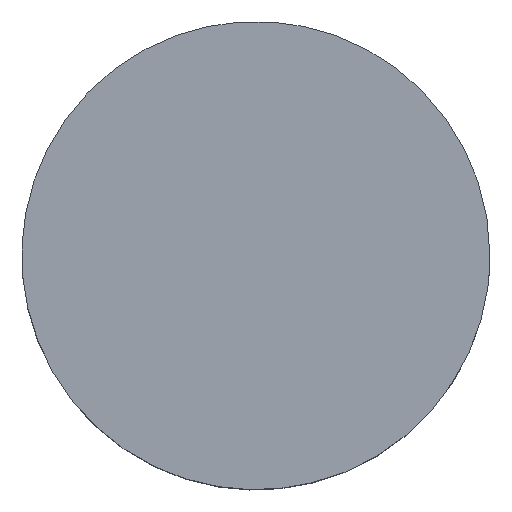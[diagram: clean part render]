
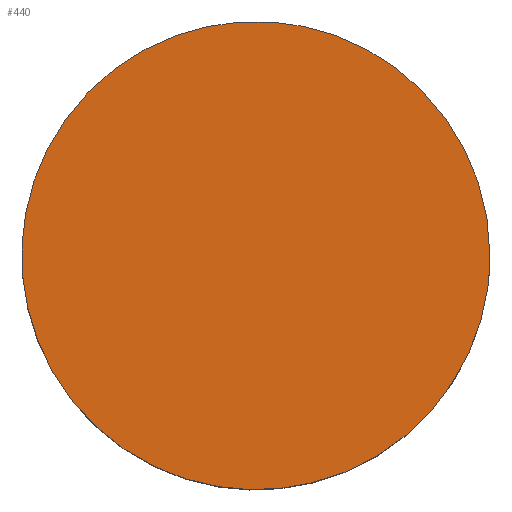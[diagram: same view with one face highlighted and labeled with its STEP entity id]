
A CAD part, top view. The second image highlights one B-rep face of the part: STEP entity #440.
In plain terms, the highlighted planar face has unit normal (0, 0, 1).
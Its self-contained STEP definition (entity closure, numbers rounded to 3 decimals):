
#230 = CARTESIAN_POINT ('', (1., 0., 0.8));
#240 = VERTEX_POINT ('', #230);
#250 = CARTESIAN_POINT ('', (1., 0., 0.8));
#260 = CARTESIAN_POINT ('', (1., 1., 0.8));
#270 = CARTESIAN_POINT ('', (0., 1., 0.8));
#280 = CARTESIAN_POINT ('', (-1., 1., 0.8));
#290 = CARTESIAN_POINT ('', (-1., 0., 0.8));
#300 = CARTESIAN_POINT ('', (-1., -1., 0.8));
#310 = CARTESIAN_POINT ('', (0., -1., 0.8));
#320 = CARTESIAN_POINT ('', (1., -1., 0.8));
#330 = CARTESIAN_POINT ('', (1., 0., 0.8));
#340 = (
   BOUNDED_CURVE ()
   B_SPLINE_CURVE (2, (#250, #260, #270, #280, #290, #300, #310, #320, #330), .UNSPECIFIED., .T., .U.)
   B_SPLINE_CURVE_WITH_KNOTS ((3, 2, 2, 2, 3), (0., 1.571, 3.142, 4.712, 6.283), .UNSPECIFIED.)
   CURVE ()
   GEOMETRIC_REPRESENTATION_ITEM ()
   RATIONAL_B_SPLINE_CURVE ((1., 0.707, 1., 0.707, 1., 0.707, 1., 0.707, 1.))
   REPRESENTATION_ITEM ('')
);
#350 = EDGE_CURVE ('', #240, #240, #340, .T.);
#360 = ORIENTED_EDGE ('', *, *, #350, .T.);
#370 = EDGE_LOOP ('', (#360));
#380 = FACE_OUTER_BOUND ('', #370, .T.);
#390 = CARTESIAN_POINT ('', (0., 2.244, 0.8));
#400 = DIRECTION ('', (0., 0., 1.));
#410 = DIRECTION ('', (-0.707, -0.707, 0.));
#420 = AXIS2_PLACEMENT_3D ('', #390, #400, #410);
#430 = PLANE ('', #420);
#440 = ADVANCED_FACE ('', (#380), #430, .T.);
